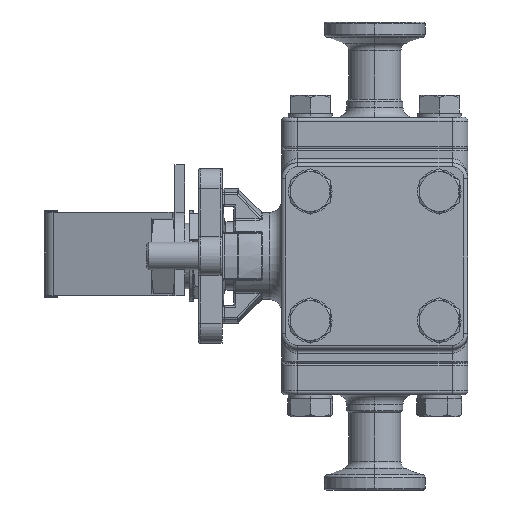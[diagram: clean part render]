
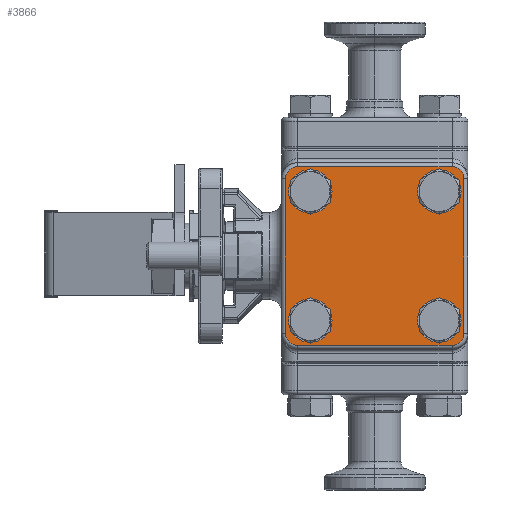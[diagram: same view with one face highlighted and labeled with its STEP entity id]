
A CAD part, left-side view. The second image highlights one B-rep face of the part: STEP entity #3866.
In plain terms, the highlighted planar face has unit normal (-1, 0, 0) as drawn and (0, 0, 1) by its records, which use the part's own axes.
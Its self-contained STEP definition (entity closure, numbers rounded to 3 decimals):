
#325 = CARTESIAN_POINT ( 'NONE',  ( 22.5, -19.5, 5. ) ) ;
#375 = EDGE_CURVE ( 'NONE', #11012, #18201, #31053, .T. ) ;
#421 = DIRECTION ( 'NONE',  ( 1., 0., 0. ) ) ;
#849 = AXIS2_PLACEMENT_3D ( 'NONE', #6585, #28364, #12288 ) ;
#863 = EDGE_CURVE ( 'NONE', #30445, #15746, #12960, .T. ) ;
#870 = ORIENTED_EDGE ( 'NONE', *, *, #8426, .F. ) ;
#1535 = DIRECTION ( 'NONE',  ( 1., 0., 0. ) ) ;
#1715 = CARTESIAN_POINT ( 'NONE',  ( 16.263, -16.263, 5. ) ) ;
#1756 = DIRECTION ( 'NONE',  ( 1., 0., 0. ) ) ;
#1831 = DIRECTION ( 'NONE',  ( 1., 0., 0. ) ) ;
#1970 = DIRECTION ( 'NONE',  ( 1., 0., 0. ) ) ;
#2023 = AXIS2_PLACEMENT_3D ( 'NONE', #11698, #17234, #11589 ) ;
#2068 = AXIS2_PLACEMENT_3D ( 'NONE', #2950, #24615, #3415 ) ;
#2419 = AXIS2_PLACEMENT_3D ( 'NONE', #10522, #2667, #13224 ) ;
#2667 = DIRECTION ( 'NONE',  ( 0., 0., 1. ) ) ;
#2950 = CARTESIAN_POINT ( 'NONE',  ( 16.263, 16.263, 5. ) ) ;
#2981 = EDGE_LOOP ( 'NONE', ( #23888, #870 ) ) ;
#3028 = EDGE_LOOP ( 'NONE', ( #8544, #16701 ) ) ;
#3126 = EDGE_LOOP ( 'NONE', ( #5606, #3246 ) ) ;
#3205 = CARTESIAN_POINT ( 'NONE',  ( -19.5, 22.5, 5. ) ) ;
#3246 = ORIENTED_EDGE ( 'NONE', *, *, #26322, .F. ) ;
#3415 = DIRECTION ( 'NONE',  ( 1., 0., 0. ) ) ;
#3510 = EDGE_CURVE ( 'NONE', #28583, #10877, #25424, .T. ) ;
#3652 = LINE ( 'NONE', #8867, #16263 ) ;
#3695 = EDGE_CURVE ( 'NONE', #4773, #22384, #7805, .T. ) ;
#3737 = CIRCLE ( 'NONE', #32006, 3.75 ) ;
#3866 = ADVANCED_FACE ( 'NONE', ( #20773, #29194, #26658, #32956, #11535 ), #8418, .T. ) ;
#4055 = EDGE_CURVE ( 'NONE', #28202, #10356, #28305, .T. ) ;
#4438 = CARTESIAN_POINT ( 'NONE',  ( -19.5, -19.5, 5. ) ) ;
#4773 = VERTEX_POINT ( 'NONE', #31218 ) ;
#4799 = LINE ( 'NONE', #3205, #32505 ) ;
#5248 = CARTESIAN_POINT ( 'NONE',  ( 12.513, 16.263, 5. ) ) ;
#5606 = ORIENTED_EDGE ( 'NONE', *, *, #6916, .F. ) ;
#5776 = VECTOR ( 'NONE', #28870, 1000. ) ;
#5880 = CIRCLE ( 'NONE', #17719, 3. ) ;
#6585 = CARTESIAN_POINT ( 'NONE',  ( 19.5, -19.5, 5. ) ) ;
#6916 = EDGE_CURVE ( 'NONE', #24920, #17056, #28987, .T. ) ;
#6926 = DIRECTION ( 'NONE',  ( 0., 0., 1. ) ) ;
#7152 = CARTESIAN_POINT ( 'NONE',  ( 19.5, 19.5, 5. ) ) ;
#7805 = CIRCLE ( 'NONE', #2419, 3.75 ) ;
#8316 = AXIS2_PLACEMENT_3D ( 'NONE', #21871, #32343, #421 ) ;
#8376 = EDGE_CURVE ( 'NONE', #22384, #4773, #3737, .T. ) ;
#8415 = LINE ( 'NONE', #16060, #11753 ) ;
#8418 = PLANE ( 'NONE',  #8316 ) ;
#8426 = EDGE_CURVE ( 'NONE', #18201, #11012, #19257, .T. ) ;
#8544 = ORIENTED_EDGE ( 'NONE', *, *, #863, .F. ) ;
#8867 = CARTESIAN_POINT ( 'NONE',  ( 22.5, 19.5, 5. ) ) ;
#8984 = AXIS2_PLACEMENT_3D ( 'NONE', #17665, #30811, #31143 ) ;
#9088 = AXIS2_PLACEMENT_3D ( 'NONE', #23206, #17727, #1535 ) ;
#9356 = CARTESIAN_POINT ( 'NONE',  ( -22.5, -19.5, 5. ) ) ;
#9385 = DIRECTION ( 'NONE',  ( 1., 0., 0. ) ) ;
#9886 = CARTESIAN_POINT ( 'NONE',  ( 19.5, -22.5, 5. ) ) ;
#10356 = VERTEX_POINT ( 'NONE', #13988 ) ;
#10522 = CARTESIAN_POINT ( 'NONE',  ( -16.263, 16.263, 5. ) ) ;
#10877 = VERTEX_POINT ( 'NONE', #325 ) ;
#11012 = VERTEX_POINT ( 'NONE', #17991 ) ;
#11535 = FACE_BOUND ( 'NONE', #18554, .T. ) ;
#11589 = DIRECTION ( 'NONE',  ( 1., 0., 0. ) ) ;
#11691 = CARTESIAN_POINT ( 'NONE',  ( 19.5, -22.5, 5. ) ) ;
#11698 = CARTESIAN_POINT ( 'NONE',  ( 16.263, -16.263, 5. ) ) ;
#11753 = VECTOR ( 'NONE', #26599, 1000. ) ;
#12288 = DIRECTION ( 'NONE',  ( 1., 0., 0. ) ) ;
#12354 = CARTESIAN_POINT ( 'NONE',  ( -20.013, -16.263, 5. ) ) ;
#12444 = EDGE_CURVE ( 'NONE', #29483, #22139, #5880, .T. ) ;
#12618 = EDGE_CURVE ( 'NONE', #10356, #29483, #8415, .T. ) ;
#12686 = ORIENTED_EDGE ( 'NONE', *, *, #3695, .F. ) ;
#12784 = ORIENTED_EDGE ( 'NONE', *, *, #3510, .T. ) ;
#12960 = CIRCLE ( 'NONE', #18229, 3.75 ) ;
#13203 = ORIENTED_EDGE ( 'NONE', *, *, #15059, .T. ) ;
#13224 = DIRECTION ( 'NONE',  ( 1., 0., 0. ) ) ;
#13988 = CARTESIAN_POINT ( 'NONE',  ( -22.5, 19.5, 5. ) ) ;
#14260 = EDGE_LOOP ( 'NONE', ( #13203, #20580, #32481, #17693, #29836, #17280, #24442, #12784 ) ) ;
#14354 = CARTESIAN_POINT ( 'NONE',  ( 20.013, -16.263, 5. ) ) ;
#14987 = DIRECTION ( 'NONE',  ( 1., 0., 0. ) ) ;
#15059 = EDGE_CURVE ( 'NONE', #10877, #33918, #3652, .T. ) ;
#15746 = VERTEX_POINT ( 'NONE', #18657 ) ;
#16060 = CARTESIAN_POINT ( 'NONE',  ( -22.5, -19.5, 5. ) ) ;
#16263 = VECTOR ( 'NONE', #32672, 1000. ) ;
#16701 = ORIENTED_EDGE ( 'NONE', *, *, #32730, .F. ) ;
#17056 = VERTEX_POINT ( 'NONE', #27455 ) ;
#17091 = EDGE_CURVE ( 'NONE', #22951, #28202, #4799, .T. ) ;
#17234 = DIRECTION ( 'NONE',  ( 0., 0., 1. ) ) ;
#17280 = ORIENTED_EDGE ( 'NONE', *, *, #12444, .T. ) ;
#17665 = CARTESIAN_POINT ( 'NONE',  ( -19.5, 19.5, 5. ) ) ;
#17693 = ORIENTED_EDGE ( 'NONE', *, *, #4055, .T. ) ;
#17719 = AXIS2_PLACEMENT_3D ( 'NONE', #4438, #20854, #1970 ) ;
#17727 = DIRECTION ( 'NONE',  ( 0., 0., 1. ) ) ;
#17991 = CARTESIAN_POINT ( 'NONE',  ( 12.513, -16.263, 5. ) ) ;
#18201 = VERTEX_POINT ( 'NONE', #14354 ) ;
#18229 = AXIS2_PLACEMENT_3D ( 'NONE', #25914, #34242, #1756 ) ;
#18554 = EDGE_LOOP ( 'NONE', ( #12686, #23682 ) ) ;
#18657 = CARTESIAN_POINT ( 'NONE',  ( -12.513, -16.263, 5. ) ) ;
#19257 = CIRCLE ( 'NONE', #20542, 3.75 ) ;
#19382 = CARTESIAN_POINT ( 'NONE',  ( -12.513, 16.263, 5. ) ) ;
#20542 = AXIS2_PLACEMENT_3D ( 'NONE', #1715, #33500, #28215 ) ;
#20580 = ORIENTED_EDGE ( 'NONE', *, *, #26434, .T. ) ;
#20773 = FACE_OUTER_BOUND ( 'NONE', #14260, .T. ) ;
#20854 = DIRECTION ( 'NONE',  ( 0., 0., 1. ) ) ;
#21871 = CARTESIAN_POINT ( 'NONE',  ( 19.5, -19.5, 5. ) ) ;
#22139 = VERTEX_POINT ( 'NONE', #31720 ) ;
#22384 = VERTEX_POINT ( 'NONE', #19382 ) ;
#22951 = VERTEX_POINT ( 'NONE', #24499 ) ;
#23206 = CARTESIAN_POINT ( 'NONE',  ( -16.263, -16.263, 5. ) ) ;
#23286 = DIRECTION ( 'NONE',  ( 0., 0., 1. ) ) ;
#23682 = ORIENTED_EDGE ( 'NONE', *, *, #8376, .F. ) ;
#23888 = ORIENTED_EDGE ( 'NONE', *, *, #375, .F. ) ;
#24277 = CIRCLE ( 'NONE', #28917, 3.75 ) ;
#24442 = ORIENTED_EDGE ( 'NONE', *, *, #24779, .T. ) ;
#24499 = CARTESIAN_POINT ( 'NONE',  ( 19.5, 22.5, 5. ) ) ;
#24615 = DIRECTION ( 'NONE',  ( 0., 0., 1. ) ) ;
#24779 = EDGE_CURVE ( 'NONE', #22139, #28583, #33873, .T. ) ;
#24865 = CIRCLE ( 'NONE', #9088, 3.75 ) ;
#24920 = VERTEX_POINT ( 'NONE', #5248 ) ;
#25424 = CIRCLE ( 'NONE', #849, 3. ) ;
#25914 = CARTESIAN_POINT ( 'NONE',  ( -16.263, -16.263, 5. ) ) ;
#26322 = EDGE_CURVE ( 'NONE', #17056, #24920, #24277, .T. ) ;
#26434 = EDGE_CURVE ( 'NONE', #33918, #22951, #28927, .T. ) ;
#26599 = DIRECTION ( 'NONE',  ( 0., -1., 0. ) ) ;
#26658 = FACE_BOUND ( 'NONE', #3126, .T. ) ;
#27455 = CARTESIAN_POINT ( 'NONE',  ( 20.013, 16.263, 5. ) ) ;
#27556 = DIRECTION ( 'NONE',  ( -1., 0., 0. ) ) ;
#28202 = VERTEX_POINT ( 'NONE', #28629 ) ;
#28215 = DIRECTION ( 'NONE',  ( 1., 0., 0. ) ) ;
#28305 = CIRCLE ( 'NONE', #8984, 3. ) ;
#28364 = DIRECTION ( 'NONE',  ( 0., 0., 1. ) ) ;
#28583 = VERTEX_POINT ( 'NONE', #11691 ) ;
#28589 = CARTESIAN_POINT ( 'NONE',  ( 16.263, 16.263, 5. ) ) ;
#28629 = CARTESIAN_POINT ( 'NONE',  ( -19.5, 22.5, 5. ) ) ;
#28870 = DIRECTION ( 'NONE',  ( 1., 0., 0. ) ) ;
#28917 = AXIS2_PLACEMENT_3D ( 'NONE', #28589, #6926, #9385 ) ;
#28927 = CIRCLE ( 'NONE', #30037, 3. ) ;
#28987 = CIRCLE ( 'NONE', #2068, 3.75 ) ;
#29194 = FACE_BOUND ( 'NONE', #3028, .T. ) ;
#29483 = VERTEX_POINT ( 'NONE', #9356 ) ;
#29836 = ORIENTED_EDGE ( 'NONE', *, *, #12618, .T. ) ;
#30037 = AXIS2_PLACEMENT_3D ( 'NONE', #7152, #23286, #14987 ) ;
#30445 = VERTEX_POINT ( 'NONE', #12354 ) ;
#30811 = DIRECTION ( 'NONE',  ( 0., 0., 1. ) ) ;
#30827 = DIRECTION ( 'NONE',  ( 0., 0., 1. ) ) ;
#31053 = CIRCLE ( 'NONE', #2023, 3.75 ) ;
#31143 = DIRECTION ( 'NONE',  ( 1., 0., 0. ) ) ;
#31218 = CARTESIAN_POINT ( 'NONE',  ( -20.013, 16.263, 5. ) ) ;
#31703 = CARTESIAN_POINT ( 'NONE',  ( 22.5, 19.5, 5. ) ) ;
#31720 = CARTESIAN_POINT ( 'NONE',  ( -19.5, -22.5, 5. ) ) ;
#32006 = AXIS2_PLACEMENT_3D ( 'NONE', #33964, #30827, #1831 ) ;
#32343 = DIRECTION ( 'NONE',  ( 0., 0., 1. ) ) ;
#32481 = ORIENTED_EDGE ( 'NONE', *, *, #17091, .T. ) ;
#32505 = VECTOR ( 'NONE', #27556, 1000. ) ;
#32672 = DIRECTION ( 'NONE',  ( 0., 1., 0. ) ) ;
#32730 = EDGE_CURVE ( 'NONE', #15746, #30445, #24865, .T. ) ;
#32956 = FACE_BOUND ( 'NONE', #2981, .T. ) ;
#33500 = DIRECTION ( 'NONE',  ( 0., 0., 1. ) ) ;
#33873 = LINE ( 'NONE', #9886, #5776 ) ;
#33918 = VERTEX_POINT ( 'NONE', #31703 ) ;
#33964 = CARTESIAN_POINT ( 'NONE',  ( -16.263, 16.263, 5. ) ) ;
#34242 = DIRECTION ( 'NONE',  ( 0., 0., 1. ) ) ;
